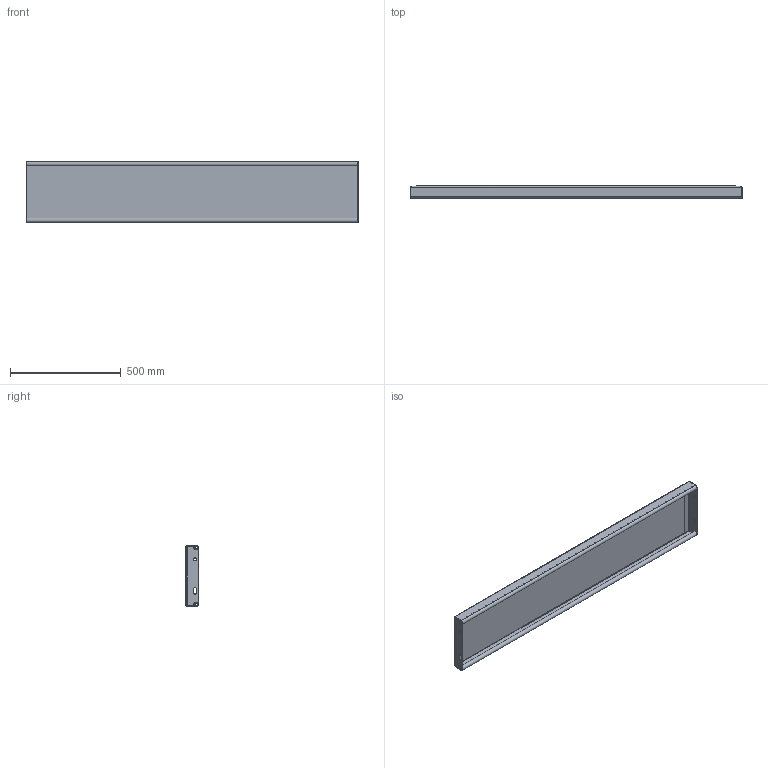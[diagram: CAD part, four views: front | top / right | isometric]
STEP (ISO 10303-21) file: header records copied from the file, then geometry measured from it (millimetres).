
FILE_DESCRIPTION (( 'STEP AP214' ), '1' );
FILE_NAME ('OPTIMO-Tread-Achil-O2-1500x275x57x2-st240-F100490100_plain.STEP', '2021-03-17T14:07:18', ( '' ), ( '' ), 'SwSTEP 2.0', 'SolidWorks 2021', '' );
FILE_SCHEMA (( 'AUTOMOTIVE_DESIGN' ));
Length unit declared in the file: millimetre
Products named in the file (1): OPTIMO-Tread-Achil-O2-1500x275x57x2-st240-F100490100_plain
Bounding box: 1500 x 57 x 275 mm (x, y, z)
Volume: 2565564.8 mm3; surface area: 1431318.9 mm2
Topology: 1 solids, 1 shells, 248 faces, 640 edges, 412 vertices
Faces by surface type: plane 173, bspline 39, cylinder 36
Entity records: 9924 total; most frequent: CARTESIAN_POINT 4092, ORIENTED_EDGE 1280, DIRECTION 1022, EDGE_CURVE 640, LINE 490, VECTOR 490, VERTEX_POINT 412, EDGE_LOOP 274
